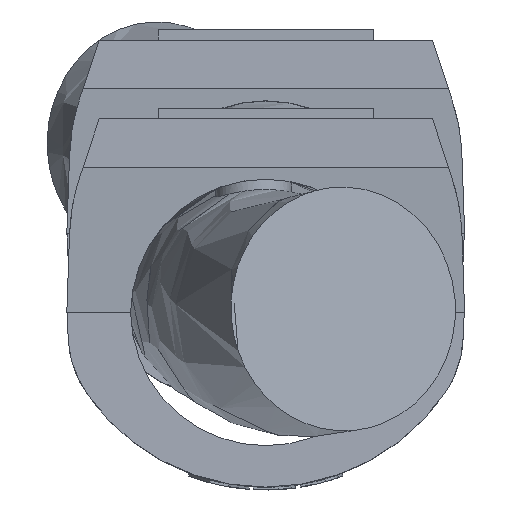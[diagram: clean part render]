
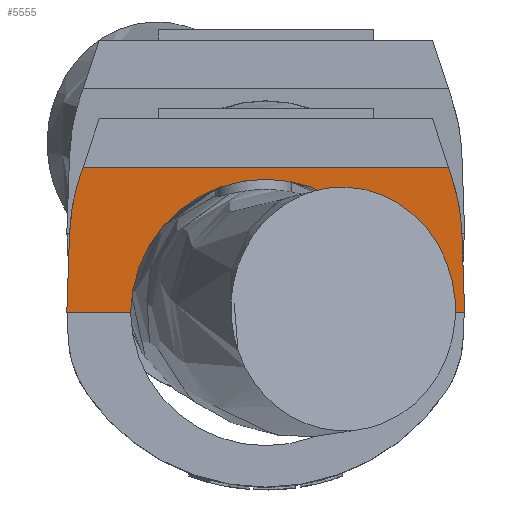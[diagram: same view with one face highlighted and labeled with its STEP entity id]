
A CAD part, top view. The second image highlights one B-rep face of the part: STEP entity #5555.
In plain terms, the highlighted planar face has unit normal (0, -0.035, 0.999).
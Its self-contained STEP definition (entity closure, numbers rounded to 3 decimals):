
#43 = EDGE_CURVE ( 'NONE', #3451, #7490, #3226, .T. ) ;
#145 = CARTESIAN_POINT ( 'NONE',  ( 298.782, -463.784, 1789.239 ) ) ;
#153 = AXIS2_PLACEMENT_3D ( 'NONE', #2425, #4448, #3763 ) ;
#272 = VERTEX_POINT ( 'NONE', #2608 ) ;
#311 = ORIENTED_EDGE ( 'NONE', *, *, #5675, .F. ) ;
#1295 = VERTEX_POINT ( 'NONE', #2856 ) ;
#1298 = CARTESIAN_POINT ( 'NONE',  ( 442.052, -515.502, 1787.433 ) ) ;
#1313 = DIRECTION ( 'NONE',  ( -1., 0., 0. ) ) ;
#1356 = DIRECTION ( 'NONE',  ( 0., 0.999, 0.035 ) ) ;
#1425 = CARTESIAN_POINT ( 'NONE',  ( 317.711, -514., 1787.486 ) ) ;
#1593 = EDGE_CURVE ( 'NONE', #1704, #4364, #1749, .T. ) ;
#1687 = ORIENTED_EDGE ( 'NONE', *, *, #4805, .F. ) ;
#1704 = VERTEX_POINT ( 'NONE', #4470 ) ;
#1749 = LINE ( 'NONE', #1298, #4094 ) ;
#1821 = ORIENTED_EDGE ( 'NONE', *, *, #4386, .F. ) ;
#1825 = EDGE_CURVE ( 'NONE', #5755, #4151, #4380, .T. ) ;
#1921 = CARTESIAN_POINT ( 'NONE',  ( 295.021, -484.756, 1788.507 ) ) ;
#1968 =( BOUNDED_CURVE ( )  B_SPLINE_CURVE ( 3, ( #4354, #5766, #7052, #6384 ),
 .UNSPECIFIED., .F., .T. ) 
 B_SPLINE_CURVE_WITH_KNOTS ( ( 4, 4 ),
 ( 1.251, 1.536 ),
 .UNSPECIFIED. ) 
 CURVE ( )  GEOMETRIC_REPRESENTATION_ITEM ( )  RATIONAL_B_SPLINE_CURVE ( ( 1., 0.993, 0.993, 1. ) ) 
 REPRESENTATION_ITEM ( '' )  );
#2002 = VECTOR ( 'NONE', #6506, 1000. ) ;
#2058 = DIRECTION ( 'NONE',  ( -1., 0., 0. ) ) ;
#2106 = LINE ( 'NONE', #6114, #3544 ) ;
#2143 = ORIENTED_EDGE ( 'NONE', *, *, #5195, .F. ) ;
#2425 = CARTESIAN_POINT ( 'NONE',  ( 368., -514.719, 1787.461 ) ) ;
#2558 = CIRCLE ( 'NONE', #153, 50.294 ) ;
#2602 = VERTEX_POINT ( 'NONE', #4417 ) ;
#2608 = CARTESIAN_POINT ( 'NONE',  ( 418.289, -514., 1787.486 ) ) ;
#2719 = CARTESIAN_POINT ( 'NONE',  ( 268., -518.658, 1787.323 ) ) ;
#2856 = CARTESIAN_POINT ( 'NONE',  ( 368., -464.456, 1789.216 ) ) ;
#3141 = CARTESIAN_POINT ( 'NONE',  ( 294.968, -486.294, 1788.453 ) ) ;
#3186 = DIRECTION ( 'NONE',  ( 0.035, 0.999, 0.035 ) ) ;
#3226 = LINE ( 'NONE', #3141, #3902 ) ;
#3254 = ORIENTED_EDGE ( 'NONE', *, *, #43, .F. ) ;
#3292 = EDGE_LOOP ( 'NONE', ( #1821, #7222, #5940, #5271, #2143, #1687, #3713, #311, #3254, #7609, #5288 ) ) ;
#3451 = VERTEX_POINT ( 'NONE', #8276 ) ;
#3464 = CARTESIAN_POINT ( 'NONE',  ( 295.271, -477.61, 1788.756 ) ) ;
#3466 = CARTESIAN_POINT ( 'NONE',  ( 298.315, -465.194, 1789.19 ) ) ;
#3506 = VECTOR ( 'NONE', #6187, 1000. ) ;
#3529 = LINE ( 'NONE', #8358, #3992 ) ;
#3544 = VECTOR ( 'NONE', #1313, 1000. ) ;
#3554 = CARTESIAN_POINT ( 'NONE',  ( 295.021, -484.756, 1788.507 ) ) ;
#3693 = CIRCLE ( 'NONE', #7394, 50.294 ) ;
#3713 = ORIENTED_EDGE ( 'NONE', *, *, #1825, .F. ) ;
#3763 = DIRECTION ( 'NONE',  ( 0., 0.999, 0.035 ) ) ;
#3852 = CARTESIAN_POINT ( 'NONE',  ( 300.036, -460., 1789.371 ) ) ;
#3902 = VECTOR ( 'NONE', #3186, 1000. ) ;
#3992 = VECTOR ( 'NONE', #4253, 1000. ) ;
#4094 = VECTOR ( 'NONE', #4611, 1000. ) ;
#4151 = VERTEX_POINT ( 'NONE', #3852 ) ;
#4253 = DIRECTION ( 'NONE',  ( 0.314, -0.949, -0.033 ) ) ;
#4267 = VECTOR ( 'NONE', #5142, 1000. ) ;
#4279 = EDGE_CURVE ( 'NONE', #1295, #7422, #2558, .T. ) ;
#4333 = EDGE_CURVE ( 'NONE', #4364, #272, #7954, .T. ) ;
#4354 = CARTESIAN_POINT ( 'NONE',  ( 437.218, -463.784, 1789.239 ) ) ;
#4364 = VERTEX_POINT ( 'NONE', #4537 ) ;
#4380 = LINE ( 'NONE', #3466, #3506 ) ;
#4386 = EDGE_CURVE ( 'NONE', #272, #1295, #3693, .T. ) ;
#4417 = CARTESIAN_POINT ( 'NONE',  ( 437.218, -463.784, 1789.239 ) ) ;
#4448 = DIRECTION ( 'NONE',  ( 0., -0.035, 0.999 ) ) ;
#4470 = CARTESIAN_POINT ( 'NONE',  ( 440.979, -484.756, 1788.507 ) ) ;
#4481 = LINE ( 'NONE', #7184, #2002 ) ;
#4512 = EDGE_CURVE ( 'NONE', #7422, #3451, #2106, .T. ) ;
#4537 = CARTESIAN_POINT ( 'NONE',  ( 442., -514., 1787.486 ) ) ;
#4611 = DIRECTION ( 'NONE',  ( 0.035, -0.999, -0.035 ) ) ;
#4711 =( BOUNDED_CURVE ( )  B_SPLINE_CURVE ( 3, ( #3554, #3464, #6891, #145 ),
 .UNSPECIFIED., .F., .T. ) 
 B_SPLINE_CURVE_WITH_KNOTS ( ( 4, 4 ),
 ( 4.747, 5.032 ),
 .UNSPECIFIED. ) 
 CURVE ( )  GEOMETRIC_REPRESENTATION_ITEM ( )  RATIONAL_B_SPLINE_CURVE ( ( 1., 0.993, 0.993, 1. ) ) 
 REPRESENTATION_ITEM ( '' )  );
#4747 = DIRECTION ( 'NONE',  ( 0., -0.035, 0.999 ) ) ;
#4805 = EDGE_CURVE ( 'NONE', #4151, #8205, #4481, .T. ) ;
#5142 = DIRECTION ( 'NONE',  ( -1., 0., 0. ) ) ;
#5195 = EDGE_CURVE ( 'NONE', #8205, #2602, #3529, .T. ) ;
#5271 = ORIENTED_EDGE ( 'NONE', *, *, #5301, .F. ) ;
#5288 = ORIENTED_EDGE ( 'NONE', *, *, #4279, .F. ) ;
#5301 = EDGE_CURVE ( 'NONE', #2602, #1704, #1968, .T. ) ;
#5435 = DIRECTION ( 'NONE',  ( 0., 0.035, -0.999 ) ) ;
#5555 = ADVANCED_FACE ( 'NONE', ( #6681 ), #6102, .F. ) ;
#5675 = EDGE_CURVE ( 'NONE', #7490, #5755, #4711, .T. ) ;
#5755 = VERTEX_POINT ( 'NONE', #8652 ) ;
#5766 = CARTESIAN_POINT ( 'NONE',  ( 439.467, -470.571, 1789.002 ) ) ;
#5940 = ORIENTED_EDGE ( 'NONE', *, *, #1593, .F. ) ;
#6102 = PLANE ( 'NONE',  #6253 ) ;
#6114 = CARTESIAN_POINT ( 'NONE',  ( 294., -514., 1787.486 ) ) ;
#6187 = DIRECTION ( 'NONE',  ( 0.314, 0.949, 0.033 ) ) ;
#6253 = AXIS2_PLACEMENT_3D ( 'NONE', #2719, #5435, #2058 ) ;
#6384 = CARTESIAN_POINT ( 'NONE',  ( 440.979, -484.756, 1788.507 ) ) ;
#6506 = DIRECTION ( 'NONE',  ( 1., 0., 0. ) ) ;
#6681 = FACE_OUTER_BOUND ( 'NONE', #3292, .T. ) ;
#6693 = CARTESIAN_POINT ( 'NONE',  ( 368., -514.719, 1787.461 ) ) ;
#6891 = CARTESIAN_POINT ( 'NONE',  ( 296.533, -470.571, 1789.002 ) ) ;
#7052 = CARTESIAN_POINT ( 'NONE',  ( 440.729, -477.61, 1788.756 ) ) ;
#7184 = CARTESIAN_POINT ( 'NONE',  ( 268., -460., 1789.371 ) ) ;
#7222 = ORIENTED_EDGE ( 'NONE', *, *, #4333, .F. ) ;
#7286 = CARTESIAN_POINT ( 'NONE',  ( 294., -514., 1787.486 ) ) ;
#7394 = AXIS2_PLACEMENT_3D ( 'NONE', #6693, #4747, #1356 ) ;
#7422 = VERTEX_POINT ( 'NONE', #1425 ) ;
#7490 = VERTEX_POINT ( 'NONE', #1921 ) ;
#7609 = ORIENTED_EDGE ( 'NONE', *, *, #4512, .F. ) ;
#7954 = LINE ( 'NONE', #7286, #4267 ) ;
#8205 = VERTEX_POINT ( 'NONE', #8668 ) ;
#8276 = CARTESIAN_POINT ( 'NONE',  ( 294., -514., 1787.486 ) ) ;
#8358 = CARTESIAN_POINT ( 'NONE',  ( 437.685, -465.194, 1789.19 ) ) ;
#8652 = CARTESIAN_POINT ( 'NONE',  ( 298.782, -463.784, 1789.239 ) ) ;
#8668 = CARTESIAN_POINT ( 'NONE',  ( 435.964, -460., 1789.371 ) ) ;
